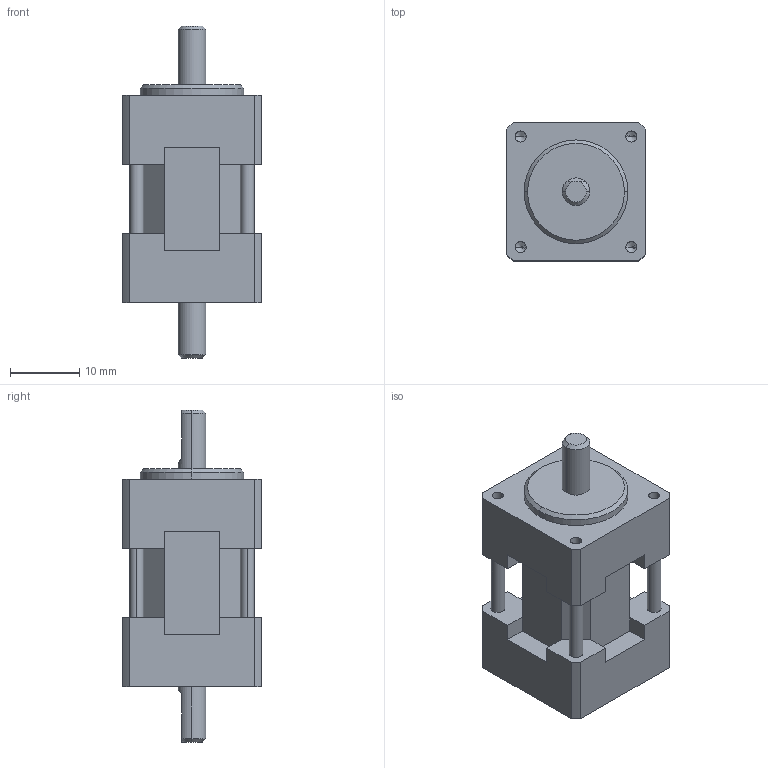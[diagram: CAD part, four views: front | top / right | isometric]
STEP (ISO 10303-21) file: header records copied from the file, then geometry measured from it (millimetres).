
FILE_DESCRIPTION (( 'STEP AP214' ), '1' );
FILE_NAME ('TS3682N11.STEP', '2016-09-09T06:30:42', ( 'hoho' ), ( '' ), 'SwSTEP 2.0', 'SolidWorks 2013', '' );
FILE_SCHEMA (( 'AUTOMOTIVE_DESIGN' ));
Length unit declared in the file: millimetre
Products named in the file (1): TS3682N11
Bounding box: 20 x 20 x 48 mm (x, y, z)
Volume: 9792.2 mm3; surface area: 4008 mm2
Topology: 1 solids, 1 shells, 103 faces, 262 edges, 160 vertices
Faces by surface type: plane 57, cylinder 30, cone 16
Entity records: 3172 total; most frequent: CARTESIAN_POINT 552, DIRECTION 526, ORIENTED_EDGE 508, EDGE_CURVE 254, VECTOR 178, LINE 178, AXIS2_PLACEMENT_3D 174, VERTEX_POINT 160
